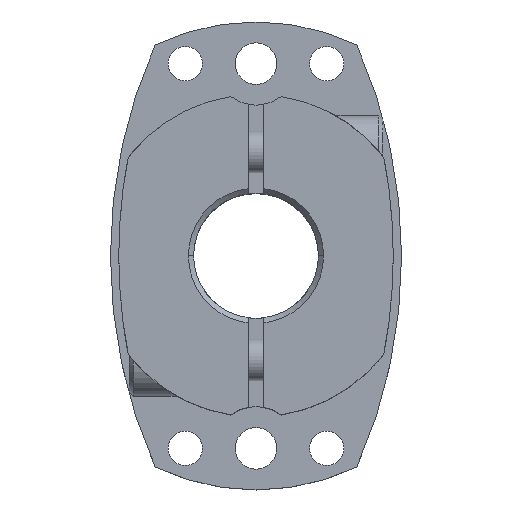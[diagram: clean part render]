
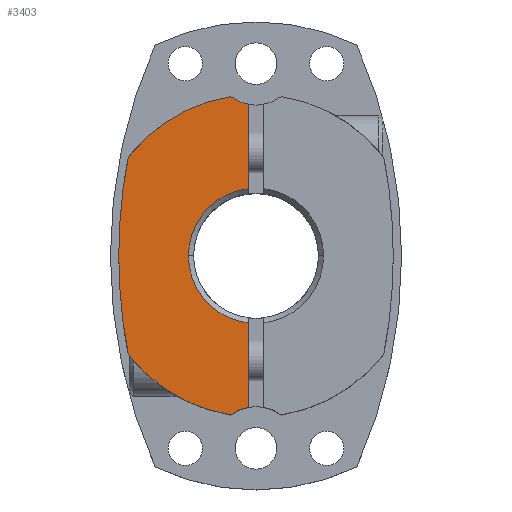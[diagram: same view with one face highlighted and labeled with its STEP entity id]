
A CAD part, top view. The second image highlights one B-rep face of the part: STEP entity #3403.
In plain terms, the highlighted planar face has unit normal (0, 0, 1).
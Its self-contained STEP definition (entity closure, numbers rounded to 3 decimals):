
#412=CARTESIAN_POINT('',(-6.5,0.,14.5));
#413=VERTEX_POINT('',#412);
#421=CARTESIAN_POINT('',(-0.75,6.457,14.5));
#422=VERTEX_POINT('',#421);
#436=CARTESIAN_POINT('',(0.,0.0,14.5));
#437=DIRECTION('',(0.0,0.0,1.0));
#438=DIRECTION('',(-1.0,0.0,0.0));
#439=AXIS2_PLACEMENT_3D('',#436,#437,#438);
#440=CIRCLE('',#439,6.5);
#441=EDGE_CURVE('',#422,#413,#440,.T.);
#451=CARTESIAN_POINT('',(-13.2,0.,14.5));
#452=VERTEX_POINT('',#451);
#461=CARTESIAN_POINT('',(-12.283,9.454,14.5));
#462=VERTEX_POINT('',#461);
#463=CARTESIAN_POINT('',(36.,0.,14.5));
#464=DIRECTION('',(0.0,0.0,-1.0));
#465=DIRECTION('',(1.0,0.0,0.0));
#466=AXIS2_PLACEMENT_3D('',#463,#464,#465);
#467=CIRCLE('',#466,49.2);
#468=EDGE_CURVE('',#452,#462,#467,.T.);
#1918=CARTESIAN_POINT('',(-2.414,-15.311,14.5));
#1919=VERTEX_POINT('',#1918);
#1926=CARTESIAN_POINT('',(-12.283,-9.454,14.5));
#1927=VERTEX_POINT('',#1926);
#1928=CARTESIAN_POINT('',(0.,0.,14.5));
#1929=DIRECTION('',(0.0,0.0,-1.0));
#1930=DIRECTION('',(1.0,0.0,0.0));
#1931=AXIS2_PLACEMENT_3D('',#1928,#1929,#1930);
#1932=CIRCLE('',#1931,15.5);
#1933=EDGE_CURVE('',#1919,#1927,#1932,.T.);
#2614=CARTESIAN_POINT('',(36.,0.,14.5));
#2615=DIRECTION('',(0.0,0.0,-1.0));
#2616=DIRECTION('',(1.0,0.0,0.0));
#2617=AXIS2_PLACEMENT_3D('',#2614,#2615,#2616);
#2618=CIRCLE('',#2617,49.2);
#2619=EDGE_CURVE('',#1927,#452,#2618,.T.);
#2629=CARTESIAN_POINT('',(-0.75,-14.571,14.5));
#2630=VERTEX_POINT('',#2629);
#2639=CARTESIAN_POINT('',(0.,-18.5,14.5));
#2640=DIRECTION('',(0.0,0.0,-1.0));
#2641=DIRECTION('',(1.0,0.0,0.0));
#2642=AXIS2_PLACEMENT_3D('',#2639,#2640,#2641);
#2643=CIRCLE('',#2642,4.0);
#2644=EDGE_CURVE('',#1919,#2630,#2643,.T.);
#2823=CARTESIAN_POINT('',(-0.75,14.571,14.5));
#2824=VERTEX_POINT('',#2823);
#2840=CARTESIAN_POINT('',(-2.414,15.311,14.5));
#2841=VERTEX_POINT('',#2840);
#2848=CARTESIAN_POINT('',(0.,18.5,14.5));
#2849=DIRECTION('',(0.0,0.0,-1.0));
#2850=DIRECTION('',(1.0,0.0,0.0));
#2851=AXIS2_PLACEMENT_3D('',#2848,#2849,#2850);
#2852=CIRCLE('',#2851,4.0);
#2853=EDGE_CURVE('',#2824,#2841,#2852,.T.);
#2967=CARTESIAN_POINT('',(-0.75,-6.457,14.5));
#2968=VERTEX_POINT('',#2967);
#2982=CARTESIAN_POINT('',(-0.75,-14.571,14.5));
#2983=DIRECTION('',(0.0,1.0,0.0));
#2984=VECTOR('',#2983,8.114);
#2985=LINE('',#2982,#2984);
#2986=EDGE_CURVE('',#2630,#2968,#2985,.T.);
#3029=CARTESIAN_POINT('',(-0.75,6.457,14.5));
#3030=DIRECTION('',(0.0,1.0,0.0));
#3031=VECTOR('',#3030,8.114);
#3032=LINE('',#3029,#3031);
#3033=EDGE_CURVE('',#422,#2824,#3032,.T.);
#3341=CARTESIAN_POINT('',(0.,0.,14.5));
#3342=DIRECTION('',(0.0,0.0,-1.0));
#3343=DIRECTION('',(1.0,0.0,0.0));
#3344=AXIS2_PLACEMENT_3D('',#3341,#3342,#3343);
#3345=CIRCLE('',#3344,15.5);
#3346=EDGE_CURVE('',#462,#2841,#3345,.T.);
#3380=CARTESIAN_POINT('',(0.,0.,14.5));
#3381=DIRECTION('',(0.0,0.0,1.0));
#3382=DIRECTION('',(1.0,0.0,0.0));
#3383=AXIS2_PLACEMENT_3D('',#3380,#3381,#3382);
#3384=PLANE('',#3383);
#3385=ORIENTED_EDGE('',*,*,#2644,.T.);
#3386=ORIENTED_EDGE('',*,*,#2986,.T.);
#3387=CARTESIAN_POINT('',(0.,0.0,14.5));
#3388=DIRECTION('',(0.0,0.0,1.0));
#3389=DIRECTION('',(-1.0,0.0,0.0));
#3390=AXIS2_PLACEMENT_3D('',#3387,#3388,#3389);
#3391=CIRCLE('',#3390,6.5);
#3392=EDGE_CURVE('',#413,#2968,#3391,.T.);
#3393=ORIENTED_EDGE('',*,*,#3392,.F.);
#3394=ORIENTED_EDGE('',*,*,#441,.F.);
#3395=ORIENTED_EDGE('',*,*,#3033,.T.);
#3396=ORIENTED_EDGE('',*,*,#2853,.T.);
#3397=ORIENTED_EDGE('',*,*,#3346,.F.);
#3398=ORIENTED_EDGE('',*,*,#468,.F.);
#3399=ORIENTED_EDGE('',*,*,#2619,.F.);
#3400=ORIENTED_EDGE('',*,*,#1933,.F.);
#3401=EDGE_LOOP('',(#3385,#3386,#3393,#3394,#3395,#3396,#3397,#3398,#3399,#3400));
#3402=FACE_OUTER_BOUND('',#3401,.T.);
#3403=ADVANCED_FACE('',(#3402),#3384,.T.);
